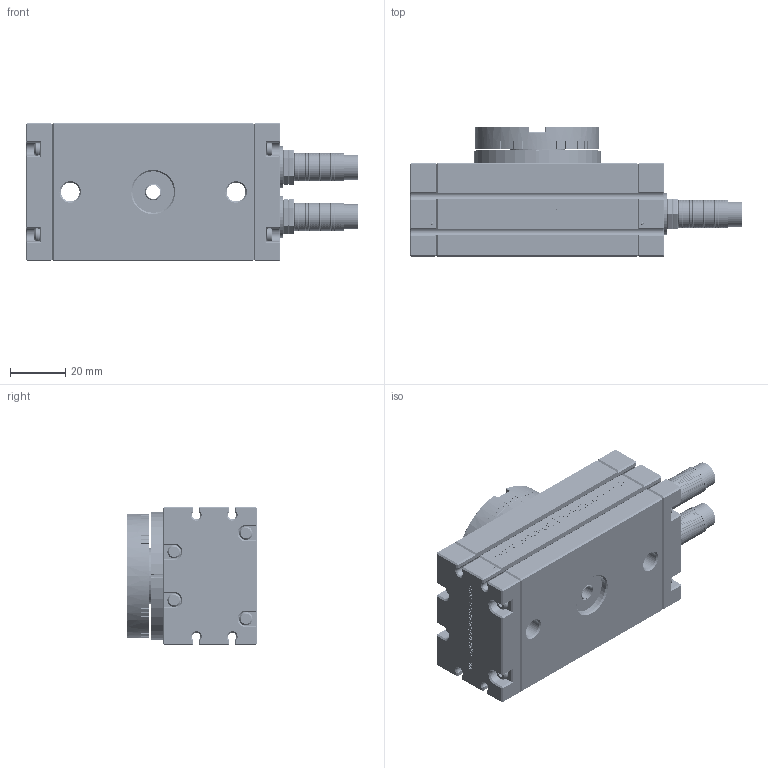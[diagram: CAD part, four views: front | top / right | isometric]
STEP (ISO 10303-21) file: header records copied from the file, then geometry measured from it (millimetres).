
FILE_DESCRIPTION (( 'STEP AP203' ), '1' );
FILE_NAME ('GTB 10.STEP', '2013-05-06T06:47:21', ( 'Christophe Gaillard' ), ( 'SGA' ), 'SwSTEP 2.0', 'SolidWorks 2010', '' );
FILE_SCHEMA (( 'CONFIG_CONTROL_DESIGN' ));
Products named in the file (10): Disque RTB_Default; Pièce B_Default; Amortisseur RTB_Default; GTB 10; Pièce A_Default; RTB corp_Default; Vis corp_Default; Petite vis_Default; Butée en caoutchouc_Default; Boulon RTB_Default
Assembly tree (40 placements, depth 2):
  GTB 10
    Vis corp_Default  x20
    Petite vis_Default  x8
    Disque RTB_Default
    Amortisseur RTB_Default  x2
    RTB corp_Default
    Boulon RTB_Default  x4
    Butée en caoutchouc_Default  x2
    Pièce A_Default
    Pièce B_Default
Bounding box: 120.1 x 47 x 50 mm (x, y, z)
Volume: 163321.1 mm3; surface area: 52548.5 mm2
Topology: 40 solids, 40 shells, 22863 faces, 53141 edges, 32024 vertices
Faces by surface type: plane 10930, cylinder 6915, cone 3701, bspline 590, torus 529, sphere 198
Entity records: 166938 total; most frequent: CARTESIAN_POINT 59371, DIRECTION 22240, ORIENTED_EDGE 21826, EDGE_CURVE 10913, AXIS2_PLACEMENT_3D 8367, VERTEX_POINT 6406, VECTOR 5506, LINE 5506
